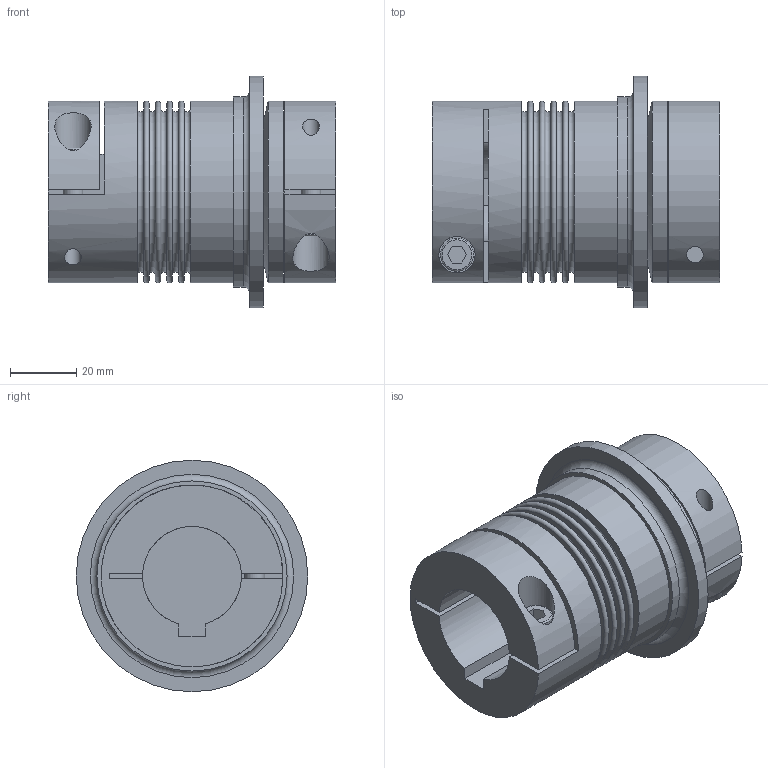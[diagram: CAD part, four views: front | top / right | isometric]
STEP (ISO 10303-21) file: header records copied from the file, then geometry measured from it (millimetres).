
FILE_DESCRIPTION(/* description */ ('STEP AP214'),/* implementation_level */ '2;1');
FILE_NAME(/* name */ 'C:\Diequa Files\DieQua Coupling\TB2\STP\TB2.30.87.F.#.#.stp',/* time_stamp */ '2019-04-26T10:40:59-05:00',/* author */ ('DiequaCAD'),/* organization */ (''),/* preprocessor_version */ 'ST-DEVELOPER v18',/* originating_system */ 'Autodesk Inventor 2020',/* authorisation */ ' ');
FILE_SCHEMA (('AUTOMOTIVE_DESIGN { 1 0 10303 214 3 1 1 }'));
Length unit declared in the file: millimetre
Products named in the file (1): TB2.30.87.F.#.#
Bounding box: 87 x 70 x 70 mm (x, y, z)
Volume: 163952.9 mm3; surface area: 40546.6 mm2
Topology: 1 solids, 1 shells, 90 faces, 212 edges, 148 vertices
Faces by surface type: plane 57, cylinder 20, torus 12, cone 1
Full cylindrical faces by diameter (mm): 5 x2, 6 x2, 6.6 x2, 10 x2, 11 x2, 41.5 x1, 55 x3, 57.5 x1, 70 x1
Entity records: 2857 total; most frequent: CARTESIAN_POINT 603, DIRECTION 491, ORIENTED_EDGE 424, EDGE_CURVE 212, AXIS2_PLACEMENT_3D 194, VERTEX_POINT 148, EDGE_LOOP 118, LINE 103
